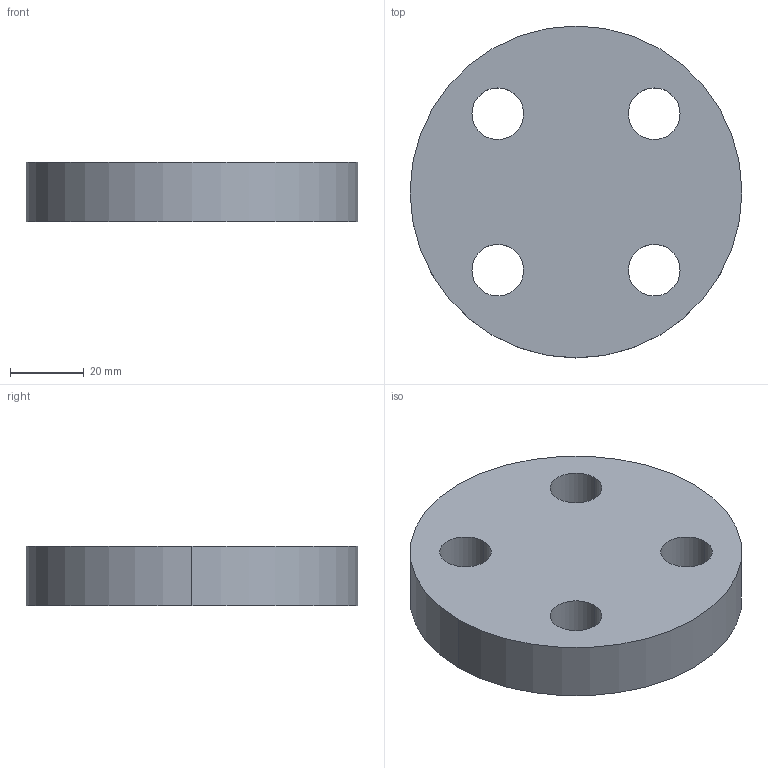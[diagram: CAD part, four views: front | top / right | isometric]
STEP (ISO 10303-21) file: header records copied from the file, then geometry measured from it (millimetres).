
FILE_DESCRIPTION (( 'STEP AP214' ), '1' );
FILE_NAME ('PN40 DN10 Type 05 - Type A Face.STEP', '2018-12-29T05:15:51', ( '' ), ( '' ), 'SwSTEP 2.0', 'SolidWorks 2019', '' );
FILE_SCHEMA (( 'AUTOMOTIVE_DESIGN' ));
Length unit declared in the file: millimetre
Products named in the file (1): PN40 DN10 Type 05 - Type A Face
Bounding box: 90 x 90 x 16 mm (x, y, z)
Volume: 91935.6 mm3; surface area: 18830.7 mm2
Topology: 1 solids, 1 shells, 12 faces, 30 edges, 20 vertices
Faces by surface type: cylinder 10, plane 2
Entity records: 424 total; most frequent: DIRECTION 76, CARTESIAN_POINT 63, ORIENTED_EDGE 60, AXIS2_PLACEMENT_3D 33, EDGE_CURVE 30, CIRCLE 20, EDGE_LOOP 20, VERTEX_POINT 20
